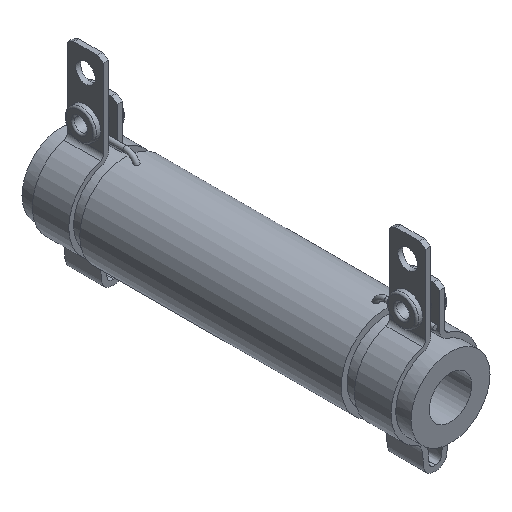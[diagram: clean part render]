
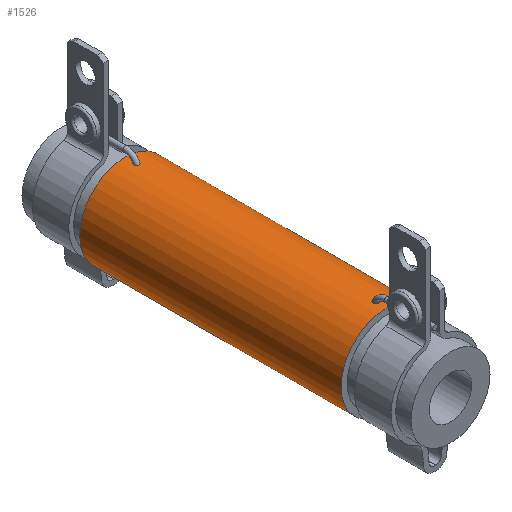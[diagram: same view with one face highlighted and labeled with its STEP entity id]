
A CAD part, isometric view. The second image highlights one B-rep face of the part: STEP entity #1526.
In plain terms, the highlighted cylindrical face has radius 7.5 mm (diameter 15 mm), a full revolution.
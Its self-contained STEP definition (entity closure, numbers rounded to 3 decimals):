
#179=B_SPLINE_CURVE_WITH_KNOTS($,3,(#2319,#2320,#2321,#2322,#2323,#2324,
#2325,#2326,#2327,#2328,#2329,#2330,#2331,#2332,#2333,#2334,#2335,#2336,
#2337,#2338,#2339,#2340,#2341,#2342,#2343,#2344,#2345,#2346,#2347,#2348,
#2349,#2350,#2351,#2352,#2353,#2354),.UNSPECIFIED.,.T.,.F.,(4,2,2,2,2,2,
2,2,2,2,2,2,2,2,2,2,2,4),(0.,0.015,0.03,0.046,
0.063,0.082,0.101,0.117,
0.131,0.144,0.158,0.175,
0.194,0.212,0.229,0.245,
0.255,0.264),.UNSPECIFIED.);
#180=B_SPLINE_CURVE_WITH_KNOTS($,3,(#2356,#2357,#2358,#2359,#2360,#2361,
#2362,#2363,#2364,#2365,#2366,#2367,#2368,#2369,#2370,#2371,#2372,#2373,
#2374,#2375,#2376,#2377,#2378,#2379,#2380,#2381,#2382,#2383,#2384,#2385,
#2386,#2387,#2388,#2389,#2390,#2391),.UNSPECIFIED.,.T.,.F.,(4,2,2,2,2,2,
2,2,2,2,2,2,2,2,2,2,2,4),(0.,0.015,0.03,0.046,
0.063,0.082,0.101,0.117,
0.131,0.144,0.158,0.175,
0.194,0.212,0.229,0.245,
0.255,0.264),.UNSPECIFIED.);
#209=FACE_BOUND($,#416,.T.);
#210=FACE_BOUND($,#417,.T.);
#211=FACE_BOUND($,#418,.T.);
#212=FACE_BOUND($,#419,.T.);
#283=CYLINDRICAL_SURFACE($,#1636,7.5);
#416=EDGE_LOOP($,(#1018));
#417=EDGE_LOOP($,(#1019));
#418=EDGE_LOOP($,(#1020));
#419=EDGE_LOOP($,(#1021));
#563=CIRCLE($,#1637,7.5);
#564=CIRCLE($,#1638,7.5);
#664=VERTEX_POINT($,#2318);
#665=VERTEX_POINT($,#2355);
#666=VERTEX_POINT($,#2392);
#667=VERTEX_POINT($,#2394);
#812=EDGE_CURVE($,#664,#664,#179,.T.);
#813=EDGE_CURVE($,#665,#665,#180,.T.);
#814=EDGE_CURVE($,#666,#666,#563,.T.);
#815=EDGE_CURVE($,#667,#667,#564,.T.);
#1018=ORIENTED_EDGE($,*,*,#812,.T.);
#1019=ORIENTED_EDGE($,*,*,#813,.T.);
#1020=ORIENTED_EDGE($,*,*,#814,.T.);
#1021=ORIENTED_EDGE($,*,*,#815,.F.);
#1526=ADVANCED_FACE($,(#209,#210,#211,#212),#283,.T.);
#1636=AXIS2_PLACEMENT_3D($,#2317,#1846,#1847);
#1637=AXIS2_PLACEMENT_3D($,#2393,#1848,#1849);
#1638=AXIS2_PLACEMENT_3D($,#2395,#1850,#1851);
#1846=DIRECTION('center_axis',(0.,1.,0.));
#1847=DIRECTION('ref_axis',(0.757,0.,0.653));
#1848=DIRECTION('center_axis',(0.,-1.,0.));
#1849=DIRECTION('ref_axis',(0.757,0.,0.653));
#1850=DIRECTION('center_axis',(0.,-1.,0.));
#1851=DIRECTION('ref_axis',(0.757,0.,0.653));
#2317=CARTESIAN_POINT('Origin',(21.645,57.077,19.693));
#2318=CARTESIAN_POINT('',(21.645,59.34,27.193));
#2319=CARTESIAN_POINT('Ctrl Pts',(21.645,59.34,27.193));
#2320=CARTESIAN_POINT('Ctrl Pts',(21.695,59.34,27.193));
#2321=CARTESIAN_POINT('Ctrl Pts',(21.745,59.33,27.192));
#2322=CARTESIAN_POINT('Ctrl Pts',(21.838,59.292,27.19));
#2323=CARTESIAN_POINT('Ctrl Pts',(21.881,59.264,27.189));
#2324=CARTESIAN_POINT('Ctrl Pts',(21.956,59.191,27.186));
#2325=CARTESIAN_POINT('Ctrl Pts',(21.986,59.146,27.185));
#2326=CARTESIAN_POINT('Ctrl Pts',(22.03,59.045,27.183));
#2327=CARTESIAN_POINT('Ctrl Pts',(22.043,58.989,27.182));
#2328=CARTESIAN_POINT('Ctrl Pts',(22.047,58.87,27.182));
#2329=CARTESIAN_POINT('Ctrl Pts',(22.037,58.809,27.182));
#2330=CARTESIAN_POINT('Ctrl Pts',(21.995,58.692,27.185));
#2331=CARTESIAN_POINT('Ctrl Pts',(21.962,58.636,27.186));
#2332=CARTESIAN_POINT('Ctrl Pts',(21.883,58.551,27.189));
#2333=CARTESIAN_POINT('Ctrl Pts',(21.84,58.518,27.19));
#2334=CARTESIAN_POINT('Ctrl Pts',(21.749,58.476,27.192));
#2335=CARTESIAN_POINT('Ctrl Pts',(21.704,58.465,27.193));
#2336=CARTESIAN_POINT('Ctrl Pts',(21.613,58.461,27.193));
#2337=CARTESIAN_POINT('Ctrl Pts',(21.57,58.469,27.192));
#2338=CARTESIAN_POINT('Ctrl Pts',(21.483,58.5,27.191));
#2339=CARTESIAN_POINT('Ctrl Pts',(21.442,58.525,27.19));
#2340=CARTESIAN_POINT('Ctrl Pts',(21.364,58.593,27.188));
#2341=CARTESIAN_POINT('Ctrl Pts',(21.329,58.638,27.186));
#2342=CARTESIAN_POINT('Ctrl Pts',(21.273,58.742,27.183));
#2343=CARTESIAN_POINT('Ctrl Pts',(21.254,58.803,27.182));
#2344=CARTESIAN_POINT('Ctrl Pts',(21.241,58.927,27.182));
#2345=CARTESIAN_POINT('Ctrl Pts',(21.247,58.99,27.182));
#2346=CARTESIAN_POINT('Ctrl Pts',(21.282,59.104,27.184));
#2347=CARTESIAN_POINT('Ctrl Pts',(21.309,59.154,27.185));
#2348=CARTESIAN_POINT('Ctrl Pts',(21.379,59.238,27.188));
#2349=CARTESIAN_POINT('Ctrl Pts',(21.42,59.272,27.189));
#2350=CARTESIAN_POINT('Ctrl Pts',(21.495,59.311,27.191));
#2351=CARTESIAN_POINT('Ctrl Pts',(21.524,59.322,27.192));
#2352=CARTESIAN_POINT('Ctrl Pts',(21.584,59.336,27.192));
#2353=CARTESIAN_POINT('Ctrl Pts',(21.614,59.34,27.193));
#2354=CARTESIAN_POINT('Ctrl Pts',(21.645,59.34,27.193));
#2355=CARTESIAN_POINT('',(21.645,97.814,27.193));
#2356=CARTESIAN_POINT('Ctrl Pts',(21.645,97.814,27.193));
#2357=CARTESIAN_POINT('Ctrl Pts',(21.595,97.814,27.193));
#2358=CARTESIAN_POINT('Ctrl Pts',(21.546,97.824,27.192));
#2359=CARTESIAN_POINT('Ctrl Pts',(21.452,97.862,27.19));
#2360=CARTESIAN_POINT('Ctrl Pts',(21.409,97.891,27.189));
#2361=CARTESIAN_POINT('Ctrl Pts',(21.335,97.964,27.186));
#2362=CARTESIAN_POINT('Ctrl Pts',(21.305,98.008,27.185));
#2363=CARTESIAN_POINT('Ctrl Pts',(21.26,98.109,27.183));
#2364=CARTESIAN_POINT('Ctrl Pts',(21.248,98.165,27.182));
#2365=CARTESIAN_POINT('Ctrl Pts',(21.243,98.284,27.182));
#2366=CARTESIAN_POINT('Ctrl Pts',(21.253,98.346,27.182));
#2367=CARTESIAN_POINT('Ctrl Pts',(21.295,98.463,27.185));
#2368=CARTESIAN_POINT('Ctrl Pts',(21.328,98.518,27.186));
#2369=CARTESIAN_POINT('Ctrl Pts',(21.407,98.604,27.189));
#2370=CARTESIAN_POINT('Ctrl Pts',(21.451,98.637,27.19));
#2371=CARTESIAN_POINT('Ctrl Pts',(21.541,98.678,27.192));
#2372=CARTESIAN_POINT('Ctrl Pts',(21.587,98.69,27.193));
#2373=CARTESIAN_POINT('Ctrl Pts',(21.677,98.693,27.193));
#2374=CARTESIAN_POINT('Ctrl Pts',(21.721,98.686,27.192));
#2375=CARTESIAN_POINT('Ctrl Pts',(21.807,98.655,27.191));
#2376=CARTESIAN_POINT('Ctrl Pts',(21.849,98.63,27.19));
#2377=CARTESIAN_POINT('Ctrl Pts',(21.927,98.562,27.188));
#2378=CARTESIAN_POINT('Ctrl Pts',(21.962,98.517,27.186));
#2379=CARTESIAN_POINT('Ctrl Pts',(22.018,98.412,27.183));
#2380=CARTESIAN_POINT('Ctrl Pts',(22.036,98.351,27.182));
#2381=CARTESIAN_POINT('Ctrl Pts',(22.049,98.227,27.182));
#2382=CARTESIAN_POINT('Ctrl Pts',(22.043,98.164,27.182));
#2383=CARTESIAN_POINT('Ctrl Pts',(22.009,98.051,27.184));
#2384=CARTESIAN_POINT('Ctrl Pts',(21.982,98.,27.185));
#2385=CARTESIAN_POINT('Ctrl Pts',(21.911,97.916,27.188));
#2386=CARTESIAN_POINT('Ctrl Pts',(21.87,97.882,27.189));
#2387=CARTESIAN_POINT('Ctrl Pts',(21.796,97.844,27.191));
#2388=CARTESIAN_POINT('Ctrl Pts',(21.767,97.833,27.192));
#2389=CARTESIAN_POINT('Ctrl Pts',(21.707,97.818,27.192));
#2390=CARTESIAN_POINT('Ctrl Pts',(21.676,97.814,27.193));
#2391=CARTESIAN_POINT('Ctrl Pts',(21.645,97.814,27.193));
#2392=CARTESIAN_POINT('',(15.968,100.077,14.792));
#2393=CARTESIAN_POINT('Origin',(21.645,100.077,19.693));
#2394=CARTESIAN_POINT('',(15.968,57.077,14.792));
#2395=CARTESIAN_POINT('Origin',(21.645,57.077,19.693));
